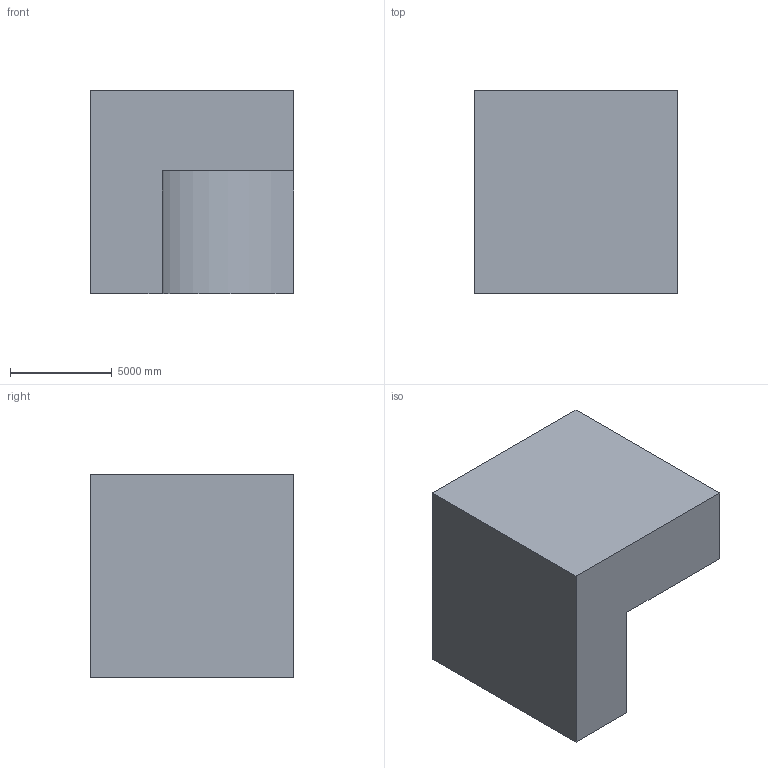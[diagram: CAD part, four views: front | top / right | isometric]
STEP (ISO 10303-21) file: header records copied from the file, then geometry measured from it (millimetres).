
FILE_DESCRIPTION (( 'STEP AP203' ), '1' );
FILE_NAME ('1.STEP', '2022-08-30T13:58:53', ( 'user' ), ( '' ), 'SwSTEP 2.0', 'SolidWorks 2021', '' );
FILE_SCHEMA (( 'CONFIG_CONTROL_DESIGN' ));
Length unit declared in the file: centimetre
Products named in the file (1): 1
Bounding box: 10000 x 10000 x 10000 mm (x, y, z)
Volume: 714568582788.4 mm3; surface area: 583236159.5 mm2
Topology: 1 solids, 1 shells, 11 faces, 27 edges, 18 vertices
Faces by surface type: plane 10, cylinder 1
Entity records: 400 total; most frequent: CARTESIAN_POINT 57, ORIENTED_EDGE 54, DIRECTION 53, EDGE_CURVE 27, VECTOR 25, LINE 25, VERTEX_POINT 18, AXIS2_PLACEMENT_3D 14
